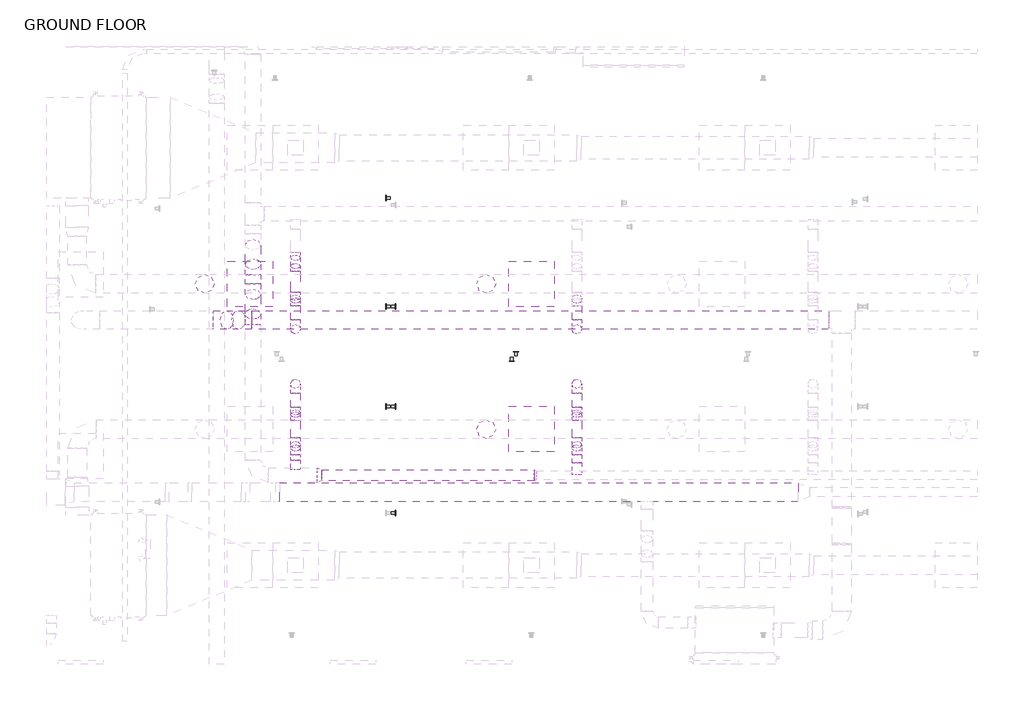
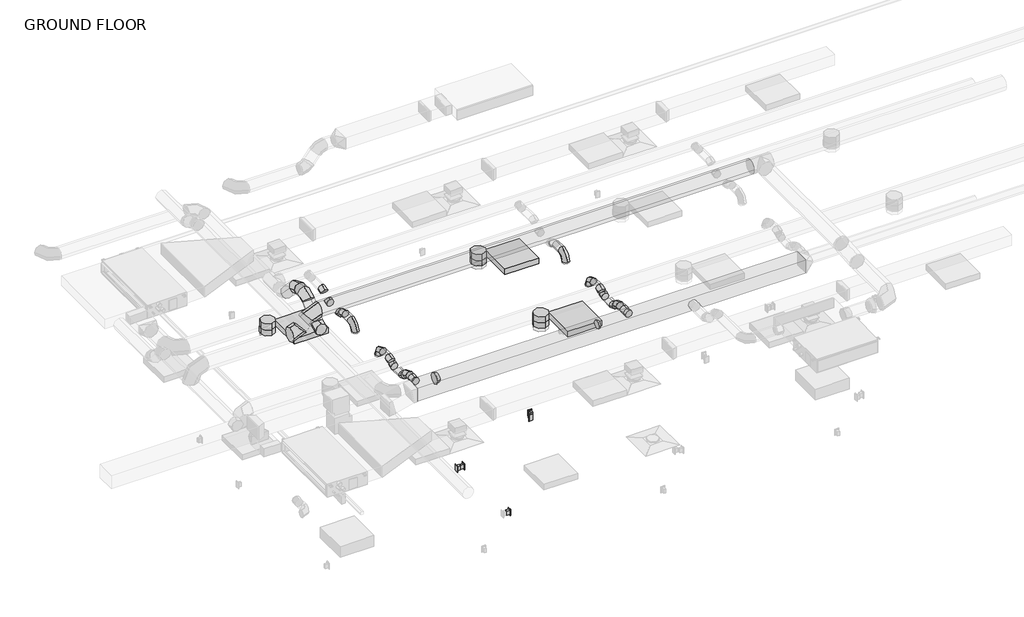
# One storey, part 3 of 22: 30 duct segments, 28 duct fittings, 6 proxies, 3 light fixtures, 2 electric appliances.
"""IFC4 building model written with IfcOpenShell, lengths in millimetres."""

from ifc_helpers import new_model, si_unit, point, frame, frame_2d, origin, place, context, project, spatial, polyline, circle_curve, trimmed, segment, composite_curve, outline, extrude, transform, mapped, element, save
from components import duplex_receptacle_countertop_10251bba, round_elbow_1_d_c80420c1, round_elbow_1_d_ab3aa7ba, round_elbow_1_d_e3dc691b, round_elbow_1_d_ea3dccb8, round_elbow_1_d_538d8ec8, round_elbow_1_d_400cd2ab, round_elbow_1_d_88736f48, round_elbow_1_d_3f34665d, round_takeoff_standard_c386a54e, round_takeoff_standard_86d024ab, round_takeoff_standard_c5a1f659, round_takeoff_standard_cae0fe22, round_transition_angle_45_degree_f2e0231c, round_transition_angle_45_degree_d2c7fbb0, telephone_outlet_data_plain_18c24199, troffer_corner_insert_2x2_3lamp_e67c7f8f

model = new_model("IFC4")

# Units and contexts
model_context = context("Model", 3, world=origin())
ifc_project = project(units=[si_unit("LENGTHUNIT", "METRE", prefix="MILLI")], contexts=[model_context])

# Site, building, storey
site = spatial("IfcSite", under=ifc_project)
building = spatial("IfcBuilding", under=site)
storey = spatial("IfcBuildingStorey", under=building, Name="GROUND FLOOR", Elevation=30480.0)

# Proxies
placement = place(None, origin())
duplex_receptacle_countertop_shape = duplex_receptacle_countertop_10251bba(model_context)
element("IfcBuildingElementProxy", 1, Name="Duplex Receptacle : Countertop", ObjectType="Duplex Receptacle : Countertop", at=placement, inside=storey, context=model_context, shape_type="MappedRepresentation", body=[
    mapped(duplex_receptacle_countertop_shape, transform((-2751.7704607, -2094.5054995, 30937.2), x_axis=(0.0, -1.0, 0.0), y_axis=(0.0, 0.0, 1.0), z_axis=(-1.0, 0.0, 0.0))),
])
element("IfcBuildingElementProxy", 2, Name="Duplex Receptacle : Countertop", ObjectType="Duplex Receptacle : Countertop", at=placement, inside=storey, context=model_context, shape_type="MappedRepresentation", body=[
    mapped(duplex_receptacle_countertop_shape, transform((-2627.9454607, -2094.5054995, 30937.2), x_axis=(0.0, 1.0, 0.0), y_axis=(0.0, 0.0, 1.0), z_axis=(1.0, 0.0, 0.0))),
])
element("IfcBuildingElementProxy", 3, Name="Duplex Receptacle : Countertop", ObjectType="Duplex Receptacle : Countertop", at=placement, inside=storey, context=model_context, shape_type="MappedRepresentation", body=[
    mapped(duplex_receptacle_countertop_shape, transform((-2627.9454607, -751.4804995, 30937.2), x_axis=(0.0, 1.0, 0.0), y_axis=(0.0, 0.0, 1.0), z_axis=(1.0, 0.0, 0.0))),
])
element("IfcBuildingElementProxy", 4, Name="Duplex Receptacle : Countertop", ObjectType="Duplex Receptacle : Countertop", at=placement, inside=storey, context=model_context, shape_type="MappedRepresentation", body=[
    mapped(duplex_receptacle_countertop_shape, transform((-2751.7704607, -751.4804995, 30937.2), x_axis=(0.0, -1.0, 0.0), y_axis=(0.0, 0.0, 1.0), z_axis=(-1.0, 0.0, 0.0))),
])
element("IfcBuildingElementProxy", 5, Name="Duplex Receptacle : Standard", ObjectType="Duplex Receptacle : Standard", at=placement, inside=storey, context=model_context, shape_type="MappedRepresentation", body=[
    mapped(duplex_receptacle_countertop_shape, transform((-1062.3593132, -1484.9054995, 30937.2), x_axis=(1.0, 0.0, 0.0), y_axis=(0.0, 0.0, 1.0), z_axis=(0.0, -1.0, 0.0))),
])
element("IfcBuildingElementProxy", 6, Name="Duplex Receptacle : Standard", ObjectType="Duplex Receptacle : Standard", at=placement, inside=storey, context=model_context, shape_type="MappedRepresentation", body=[
    mapped(duplex_receptacle_countertop_shape, transform((-1007.2617938, -1361.0804995, 30937.2), x_axis=(-1.0, 0.0, 0.0), y_axis=(0.0, 0.0, 1.0), z_axis=(0.0, 1.0, 0.0))),
])

# Duct fittings
round_elbow_1_d_shape = round_elbow_1_d_c80420c1(model_context)
element("IfcDuctFitting", 7, ObjectType="Round Elbow : 1 D", at=placement, inside=storey, context=model_context, shape_type="MappedRepresentation", body=[
    mapped(round_elbow_1_d_shape, transform((-3970.9704607, -1056.2804995, 33477.2), x_axis=(0.0, -1.0, 0.0), y_axis=(0.0, 0.0, -1.0), z_axis=(1.0, 0.0, 0.0))),
])
element("IfcDuctFitting", 8, ObjectType="Round Elbow : 1 D", at=placement, inside=storey, context=model_context, shape_type="MappedRepresentation", body=[
    mapped(round_elbow_1_d_shape, transform((-189.5454607, -1056.2804995, 33477.2), x_axis=(0.0, -1.0, 0.0), y_axis=(0.0, 0.0, -1.0), z_axis=(1.0, 0.0, 0.0))),
])
round_elbow_1_d_2_shape = round_elbow_1_d_ab3aa7ba(model_context)
element("IfcDuctFitting", 9, ObjectType="Round Elbow : 1 D", at=placement, inside=storey, context=model_context, shape_type="MappedRepresentation", body=[
    mapped(round_elbow_1_d_2_shape, transform((-4541.976464, -909.8231584, 33528.0), x_axis=(0.0, 1.0, 0.0), y_axis=(0.0, 0.0, 1.0), z_axis=(1.0, 0.0, 0.0))),
])
element("IfcDuctFitting", 10, ObjectType="Round Elbow : 1 D", at=placement, inside=storey, context=model_context, shape_type="MappedRepresentation", body=[
    mapped(round_elbow_1_d_2_shape, transform((-4541.976464, -528.8231584, 33909.0), x_axis=(0.0, 0.7071067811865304, 0.7071067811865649), y_axis=(0.0, 0.7071067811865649, -0.7071067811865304), z_axis=(-1.0, 0.0, 0.0))),
])
round_elbow_1_d_3_shape = round_elbow_1_d_e3dc691b(model_context)
element("IfcDuctFitting", 11, ObjectType="Round Elbow : 1 D", at=placement, inside=storey, context=model_context, shape_type="MappedRepresentation", body=[
    mapped(round_elbow_1_d_3_shape, transform((-3970.9704607, -2688.8145579, 33528.0), x_axis=(0.0, 1.0, 0.0), y_axis=(0.0, 0.0, -1.0), z_axis=(-1.0, 0.0, 0.0))),
])
element("IfcDuctFitting", 12, ObjectType="Round Elbow : 1 D", at=placement, inside=storey, context=model_context, shape_type="MappedRepresentation", body=[
    mapped(round_elbow_1_d_3_shape, transform((-3970.9704607, -2571.0260053, 33410.2114474), x_axis=(0.0, 0.7071067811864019, -0.7071067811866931), y_axis=(0.0, 0.7071067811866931, 0.7071067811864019), z_axis=(1.0, 0.0, 0.0))),
])
element("IfcDuctFitting", 13, ObjectType="Round Elbow : 1 D", at=placement, inside=storey, context=model_context, shape_type="MappedRepresentation", body=[
    mapped(round_elbow_1_d_3_shape, transform((-189.5454607, -2571.0260053, 33410.2114474), x_axis=(0.0, 0.7071067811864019, -0.7071067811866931), y_axis=(0.0, 0.7071067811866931, 0.7071067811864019), z_axis=(1.0, 0.0, 0.0))),
])
element("IfcDuctFitting", 14, ObjectType="Round Elbow : 1 D", at=placement, inside=storey, context=model_context, shape_type="MappedRepresentation", body=[
    mapped(round_elbow_1_d_3_shape, transform((-189.5454607, -2688.8145579, 33528.0), x_axis=(0.0, -0.707106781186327, 0.7071067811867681), y_axis=(0.0, -0.7071067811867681, -0.707106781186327), z_axis=(1.0, 0.0, 0.0))),
])
round_elbow_1_d_4_shape = round_elbow_1_d_ea3dccb8(model_context)
element("IfcDuctFitting", 15, ObjectType="Round Elbow : 1 D", at=placement, inside=storey, context=model_context, shape_type="MappedRepresentation", body=[
    mapped(round_elbow_1_d_4_shape, transform((-4664.8198591, -932.4554995, 33883.6), x_axis=(-1.0, 0.0, 0.0), y_axis=(0.0, 0.0, -1.0), z_axis=(0.0, -1.0, 0.0))),
])
element("IfcDuctFitting", 16, ObjectType="Round Elbow : 1 D", at=placement, inside=storey, context=model_context, shape_type="MappedRepresentation", body=[
    mapped(round_elbow_1_d_4_shape, transform((-4969.6198591, -932.4554995, 33578.8), x_axis=(-0.7071067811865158, 0.0, -0.7071067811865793), y_axis=(-0.7071067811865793, 0.0, 0.7071067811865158), z_axis=(0.0, 1.0, 0.0))),
])
round_elbow_1_d_5_shape = round_elbow_1_d_538d8ec8(model_context)
element("IfcDuctFitting", 17, ObjectType="Round Elbow : 1 D", at=placement, inside=storey, context=model_context, shape_type="MappedRepresentation", body=[
    mapped(round_elbow_1_d_5_shape, transform((-3970.9704607, -703.4357216, 33477.2), x_axis=(0.0, 1.0, 0.0), y_axis=(0.0, 0.0, -1.0), z_axis=(-1.0, 0.0, 0.0))),
])
element("IfcDuctFitting", 18, ObjectType="Round Elbow : 1 D", at=placement, inside=storey, context=model_context, shape_type="MappedRepresentation", body=[
    mapped(round_elbow_1_d_5_shape, transform((-3970.9704607, -599.403412, 33404.3557926), x_axis=(0.0, 0.8191520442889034, -0.5735764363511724), y_axis=(0.0, 0.5735764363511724, 0.8191520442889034), z_axis=(1.0, 0.0, 0.0))),
])
element("IfcDuctFitting", 19, ObjectType="Round Elbow : 1 D", at=placement, inside=storey, context=model_context, shape_type="MappedRepresentation", body=[
    mapped(round_elbow_1_d_5_shape, transform((-3970.9704607, -240.3054995, 33404.3557926), x_axis=(0.0, 1.0, 0.0), y_axis=(0.0, 0.0, 1.0), z_axis=(1.0, 0.0, 0.0))),
])
element("IfcDuctFitting", 20, ObjectType="Round Elbow : 1 D", at=placement, inside=storey, context=model_context, shape_type="MappedRepresentation", body=[
    mapped(round_elbow_1_d_5_shape, transform((-3970.9704607, -2238.2198452, 33410.2114474), x_axis=(0.0, -0.8191520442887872, -0.5735764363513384), y_axis=(0.0, -0.5735764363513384, 0.8191520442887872), z_axis=(-1.0, 0.0, 0.0))),
])
element("IfcDuctFitting", 21, ObjectType="Round Elbow : 1 D", at=placement, inside=storey, context=model_context, shape_type="MappedRepresentation", body=[
    mapped(round_elbow_1_d_5_shape, transform((-3970.9704607, -63.7232711, 33528.0), x_axis=(0.0, 0.8191520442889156, 0.5735764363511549), y_axis=(0.0, 0.5735764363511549, -0.8191520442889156), z_axis=(-1.0, 0.0, 0.0))),
])
element("IfcDuctFitting", 22, ObjectType="Round Elbow : 1 D", at=placement, inside=storey, context=model_context, shape_type="MappedRepresentation", body=[
    mapped(round_elbow_1_d_5_shape, transform((-189.5454607, -2238.2198452, 33410.2114474), x_axis=(0.0, -0.8191520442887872, -0.5735764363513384), y_axis=(0.0, -0.5735764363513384, 0.8191520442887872), z_axis=(-1.0, 0.0, 0.0))),
])
round_elbow_1_d_6_shape = round_elbow_1_d_400cd2ab(model_context)
element("IfcDuctFitting", 23, ObjectType="Round Elbow : 1 D", at=placement, inside=storey, context=model_context, shape_type="MappedRepresentation", body=[
    mapped(round_elbow_1_d_6_shape, transform((-3970.9704607, -1789.7054995, 33477.2), x_axis=(0.0, 1.0, 0.0), y_axis=(0.0, 0.0, 1.0), z_axis=(1.0, 0.0, 0.0))),
])
element("IfcDuctFitting", 24, ObjectType="Round Elbow : 1 D", at=placement, inside=storey, context=model_context, shape_type="MappedRepresentation", body=[
    mapped(round_elbow_1_d_6_shape, transform((-189.5454607, -1789.7054995, 33477.2), x_axis=(0.0, 1.0, 0.0), y_axis=(0.0, 0.0, 1.0), z_axis=(1.0, 0.0, 0.0))),
])
round_elbow_1_d_7_shape = round_elbow_1_d_88736f48(model_context)
element("IfcDuctFitting", 25, ObjectType="Round Elbow : 1 D", at=placement, inside=storey, context=model_context, shape_type="MappedRepresentation", body=[
    mapped(round_elbow_1_d_7_shape, transform((-3970.9704607, -2142.5502773, 33477.2), x_axis=(0.0, -1.0, 0.0), y_axis=(0.0, 0.0, 1.0), z_axis=(-1.0, 0.0, 0.0))),
])
element("IfcDuctFitting", 26, ObjectType="Round Elbow : 1 D", at=placement, inside=storey, context=model_context, shape_type="MappedRepresentation", body=[
    mapped(round_elbow_1_d_7_shape, transform((-189.5454607, -2142.5502773, 33477.2), x_axis=(0.0, -1.0, 0.0), y_axis=(0.0, 0.0, 1.0), z_axis=(-1.0, 0.0, 0.0))),
])
round_elbow_1_d_8_shape = round_elbow_1_d_3f34665d(model_context)
element("IfcDuctFitting", 27, ObjectType="Round Elbow : 1 D", at=placement, inside=storey, context=model_context, shape_type="MappedRepresentation", body=[
    mapped(round_elbow_1_d_8_shape, transform((-4541.976464, -241.4549626, 33909.0), x_axis=(0.0, -0.7071067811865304, 0.7071067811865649), y_axis=(0.0, 0.7071067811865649, 0.7071067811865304), z_axis=(-1.0, 0.0, 0.0))),
])
round_takeoff_standard_shape = round_takeoff_standard_c386a54e(model_context)
element("IfcDuctFitting", 28, ObjectType="Round Takeoff : Standard", at=placement, inside=storey, context=model_context, shape_type="MappedRepresentation", body=[
    mapped(round_takeoff_standard_shape, transform((-1408.7454607, -446.6804995, 33490.69375), x_axis=(0.0, 0.0, -1.0), y_axis=(-1.0, 0.0, 0.0), z_axis=(0.0, 1.0, 0.0))),
])
element("IfcDuctFitting", 29, ObjectType="Round Takeoff : Standard", at=placement, inside=storey, context=model_context, shape_type="MappedRepresentation", body=[
    mapped(round_takeoff_standard_shape, transform((-5190.1704607, -446.6804995, 33490.69375), x_axis=(0.0, 0.0, -1.0), y_axis=(-1.0, 0.0, 0.0), z_axis=(0.0, 1.0, 0.0))),
])
round_takeoff_standard_2_shape = round_takeoff_standard_86d024ab(model_context)
element("IfcDuctFitting", 30, ObjectType="Round Takeoff : Standard", at=placement, inside=storey, context=model_context, shape_type="MappedRepresentation", body=[
    mapped(round_takeoff_standard_2_shape, transform((-3970.9704607, -2917.4145579, 33528.0), x_axis=(0.0, 1.0, 0.0), y_axis=(1.0, 0.0, 0.0), z_axis=(0.0, 0.0, -1.0))),
])
round_takeoff_standard_3_shape = round_takeoff_standard_c5a1f659(model_context)
element("IfcDuctFitting", 31, ObjectType="Round Takeoff : Standard", at=placement, inside=storey, context=model_context, shape_type="MappedRepresentation", body=[
    mapped(round_takeoff_standard_3_shape, transform((-1408.7454607, -2399.3054995, 33490.69375), x_axis=(0.0, 0.0, -1.0), y_axis=(-1.0, 0.0, 0.0), z_axis=(0.0, 1.0, 0.0))),
])
round_takeoff_standard_4_shape = round_takeoff_standard_cae0fe22(model_context)
element("IfcDuctFitting", 32, ObjectType="Round Takeoff : Standard", at=placement, inside=storey, context=model_context, shape_type="MappedRepresentation", body=[
    mapped(round_takeoff_standard_4_shape, transform((-189.5454607, -2955.5145579, 33528.0), x_axis=(0.0, 1.0, 0.0), y_axis=(1.0, 0.0, 0.0), z_axis=(0.0, 0.0, -1.0))),
])
round_transition_angle_45_degree_shape = round_transition_angle_45_degree_f2e0231c(model_context)
element("IfcDuctFitting", 33, ObjectType="Round Transition - Angle : 45 Degree", at=placement, inside=storey, context=model_context, shape_type="MappedRepresentation", body=[
    mapped(round_transition_angle_45_degree_shape, transform((-731.976464, -3019.0145579, 33528.0), x_axis=(-1.0, 0.0, 0.0), y_axis=(0.0, -1.0, 0.0), z_axis=(0.0, 0.0, 1.0))),
])
round_transition_angle_45_degree_2_shape = round_transition_angle_45_degree_d2c7fbb0(model_context)
element("IfcDuctFitting", 34, ObjectType="Round Transition - Angle : 45 Degree", at=placement, inside=storey, context=model_context, shape_type="MappedRepresentation", body=[
    mapped(round_transition_angle_45_degree_2_shape, transform((-3681.8784098, -3019.0145579, 33528.0), x_axis=(1.0, 0.0, 0.0), y_axis=(0.0, 1.0, 0.0), z_axis=(0.0, 0.0, 1.0))),
])

# Duct segments
element("IfcDuctSegment", 35, ObjectType="Radius Elbows / Taps", at=placement, inside=storey, context=model_context, shape_type="SweptSolid", body=[
    extrude(outline(polyline([(2787.255189, -3118.6216457), (2787.255189, -3372.6216457), (-4184.5880259, -3372.6216457), (-4184.5880259, -3118.6216457), (2787.255189, -3118.6216457)])), frame((0.0, 0.0, 33475.867541), z_axis=(0.0, 0.0, 1.0), x_axis=(1.0, 0.0, 0.0)), (0.0, 0.0, 1.0), 254.0),
])
element("IfcDuctSegment", 36, ObjectType="Taps / Short Radius", at=placement, inside=storey, context=model_context, shape_type="SweptSolid", body=[
    extrude(outline(composite_curve([segment(trimmed(circle_curve(frame_2d((-932.4554995, 33883.6)), 127.0), [point((-805.4554995, 33883.6))], [point((-932.4554995, 33756.6))], False, "CARTESIAN"), True, "CONTINUOUS"), segment(trimmed(circle_curve(frame_2d((-932.4554995, 33883.6)), 127.0), [point((-932.4554995, 33756.6))], [point((-1059.4554995, 33883.6))], False, "CARTESIAN"), True, "CONTINUOUS"), segment(trimmed(circle_curve(frame_2d((-932.4554995, 33883.6)), 127.0), [point((-1059.4554995, 33883.6))], [point((-932.4554995, 34010.6))], False, "CARTESIAN"), True, "CONTINUOUS"), segment(trimmed(circle_curve(frame_2d((-932.4554995, 33883.6)), 127.0), [point((-932.4554995, 34010.6))], [point((-805.4554995, 33883.6))], False, "CARTESIAN"), True, "CONTINUOUS")], self_intersect=False)), frame((-4559.6096142, 0.0, 0.0), z_axis=(1.0, 0.0, 0.0), x_axis=(0.0, 1.0, 0.0)), (0.0, 0.0, 1.0), 7755.0178177),
])
element("IfcDuctSegment", 37, ObjectType="Taps / Short Radius", at=placement, inside=storey, context=model_context, shape_type="SweptSolid", body=[
    extrude(outline(composite_curve([segment(trimmed(circle_curve(frame_2d((0.0, -127.0)), 127.0), [point((0.0, 0.0))], [point((127.0, -127.0))], False, "CARTESIAN"), True, "CONTINUOUS"), segment(trimmed(circle_curve(frame_2d((0.0, -127.0)), 127.0), [point((127.0, -127.0))], [point((0.0, -254.0))], False, "CARTESIAN"), True, "CONTINUOUS"), segment(trimmed(circle_curve(frame_2d((0.0, -127.0)), 127.0), [point((0.0, -254.0))], [point((-127.0, -127.0))], False, "CARTESIAN"), True, "CONTINUOUS"), segment(trimmed(circle_curve(frame_2d((0.0, -127.0)), 127.0), [point((-127.0, -127.0))], [point((0.0, 0.0))], False, "CARTESIAN"), True, "CONTINUOUS")], self_intersect=False)), frame((-4895.2249815, -805.4554995, 33653.1948776), z_axis=(0.7071067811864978, 0.0, 0.7071067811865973), x_axis=(0.7071067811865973, 0.0, -0.7071067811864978)), (0.0, 0.0, 1.0), 220.6318041),
])
element("IfcDuctSegment", 38, ObjectType="Taps / Short Radius", at=placement, inside=storey, context=model_context, shape_type="SweptSolid", body=[
    extrude(outline(composite_curve([segment(trimmed(circle_curve(frame_2d((-1408.7454607, -2399.3054995)), 127.0), [point((-1535.7454607, -2399.3054995))], [point((-1408.7454607, -2272.3054995))], False, "CARTESIAN"), True, "CONTINUOUS"), segment(trimmed(circle_curve(frame_2d((-1408.7454607, -2399.3054995)), 127.0), [point((-1408.7454607, -2272.3054995))], [point((-1281.7454607, -2399.3054995))], False, "CARTESIAN"), True, "CONTINUOUS"), segment(trimmed(circle_curve(frame_2d((-1408.7454607, -2399.3054995)), 127.0), [point((-1281.7454607, -2399.3054995))], [point((-1408.7454607, -2526.3054995))], False, "CARTESIAN"), True, "CONTINUOUS"), segment(trimmed(circle_curve(frame_2d((-1408.7454607, -2399.3054995)), 127.0), [point((-1408.7454607, -2526.3054995))], [point((-1535.7454607, -2399.3054995))], False, "CARTESIAN"), True, "CONTINUOUS")], self_intersect=False)), frame((0.0, 0.0, 33324.8), z_axis=(0.0, 0.0, 1.0), x_axis=(1.0, 0.0, 0.0)), (0.0, 0.0, 1.0), 64.29375),
])
element("IfcDuctSegment", 39, ObjectType="Taps / Short Radius", at=placement, inside=storey, context=model_context, shape_type="SweptSolid", body=[
    extrude(outline(composite_curve([segment(trimmed(circle_curve(frame_2d((-1408.7454607, -446.6804995)), 127.0), [point((-1535.7454607, -446.6804995))], [point((-1408.7454607, -319.6804995))], False, "CARTESIAN"), True, "CONTINUOUS"), segment(trimmed(circle_curve(frame_2d((-1408.7454607, -446.6804995)), 127.0), [point((-1408.7454607, -319.6804995))], [point((-1281.7454607, -446.6804995))], False, "CARTESIAN"), True, "CONTINUOUS"), segment(trimmed(circle_curve(frame_2d((-1408.7454607, -446.6804995)), 127.0), [point((-1281.7454607, -446.6804995))], [point((-1408.7454607, -573.6804995))], False, "CARTESIAN"), True, "CONTINUOUS"), segment(trimmed(circle_curve(frame_2d((-1408.7454607, -446.6804995)), 127.0), [point((-1408.7454607, -573.6804995))], [point((-1535.7454607, -446.6804995))], False, "CARTESIAN"), True, "CONTINUOUS")], self_intersect=False)), frame((0.0, 0.0, 33324.8), z_axis=(0.0, 0.0, 1.0), x_axis=(1.0, 0.0, 0.0)), (0.0, 0.0, 1.0), 64.29375),
])
element("IfcDuctSegment", 40, ObjectType="Taps / Short Radius", at=placement, inside=storey, context=model_context, shape_type="SweptSolid", body=[
    extrude(outline(composite_curve([segment(trimmed(circle_curve(frame_2d((-5190.1704607, -446.6804995)), 127.0), [point((-5317.1704607, -446.6804995))], [point((-5190.1704607, -319.6804995))], False, "CARTESIAN"), True, "CONTINUOUS"), segment(trimmed(circle_curve(frame_2d((-5190.1704607, -446.6804995)), 127.0), [point((-5190.1704607, -319.6804995))], [point((-5063.1704607, -446.6804995))], False, "CARTESIAN"), True, "CONTINUOUS"), segment(trimmed(circle_curve(frame_2d((-5190.1704607, -446.6804995)), 127.0), [point((-5063.1704607, -446.6804995))], [point((-5190.1704607, -573.6804995))], False, "CARTESIAN"), True, "CONTINUOUS"), segment(trimmed(circle_curve(frame_2d((-5190.1704607, -446.6804995)), 127.0), [point((-5190.1704607, -573.6804995))], [point((-5317.1704607, -446.6804995))], False, "CARTESIAN"), True, "CONTINUOUS")], self_intersect=False)), frame((0.0, 0.0, 33324.8), z_axis=(0.0, 0.0, 1.0), x_axis=(1.0, 0.0, 0.0)), (0.0, 0.0, 1.0), 64.29375),
])
element("IfcDuctSegment", 41, ObjectType="Taps / Short Radius", at=placement, inside=storey, context=model_context, shape_type="SweptSolid", body=[
    extrude(outline(composite_curve([segment(trimmed(circle_curve(frame_2d((-3970.9704607, -1056.2804995)), 63.5), [point((-4034.4704607, -1056.2804995))], [point((-3970.9704607, -992.7804995))], False, "CARTESIAN"), True, "CONTINUOUS"), segment(trimmed(circle_curve(frame_2d((-3970.9704607, -1056.2804995)), 63.5), [point((-3970.9704607, -992.7804995))], [point((-3907.4704607, -1056.2804995))], False, "CARTESIAN"), True, "CONTINUOUS"), segment(trimmed(circle_curve(frame_2d((-3970.9704607, -1056.2804995)), 63.5), [point((-3907.4704607, -1056.2804995))], [point((-3970.9704607, -1119.7804995))], False, "CARTESIAN"), True, "CONTINUOUS"), segment(trimmed(circle_curve(frame_2d((-3970.9704607, -1056.2804995)), 63.5), [point((-3970.9704607, -1119.7804995))], [point((-4034.4704607, -1056.2804995))], False, "CARTESIAN"), True, "CONTINUOUS")], self_intersect=False)), frame((0.0, 0.0, 33324.8), z_axis=(0.0, 0.0, 1.0), x_axis=(1.0, 0.0, 0.0)), (0.0, 0.0, 1.0), 25.4),
])
element("IfcDuctSegment", 42, ObjectType="Taps / Short Radius", at=placement, inside=storey, context=model_context, shape_type="SweptSolid", body=[
    extrude(outline(composite_curve([segment(trimmed(circle_curve(frame_2d((-3019.0145579, 33528.0)), 76.2), [point((-2942.8145579, 33528.0))], [point((-3019.0145579, 33451.8))], False, "CARTESIAN"), True, "CONTINUOUS"), segment(trimmed(circle_curve(frame_2d((-3019.0145579, 33528.0)), 76.2), [point((-3019.0145579, 33451.8))], [point((-3095.2145579, 33528.0))], False, "CARTESIAN"), True, "CONTINUOUS"), segment(trimmed(circle_curve(frame_2d((-3019.0145579, 33528.0)), 76.2), [point((-3095.2145579, 33528.0))], [point((-3019.0145579, 33604.2))], False, "CARTESIAN"), True, "CONTINUOUS"), segment(trimmed(circle_curve(frame_2d((-3019.0145579, 33528.0)), 76.2), [point((-3019.0145579, 33604.2))], [point((-2942.8145579, 33528.0))], False, "CARTESIAN"), True, "CONTINUOUS")], self_intersect=False)), frame((-3620.5573854, 0.0, 0.0), z_axis=(1.0, 0.0, 0.0), x_axis=(0.0, 1.0, 0.0)), (0.0, 0.0, 1.0), 2857.9204091),
])
element("IfcDuctSegment", 43, ObjectType="Taps / Short Radius", at=placement, inside=storey, context=model_context, shape_type="SweptSolid", body=[
    extrude(outline(composite_curve([segment(trimmed(circle_curve(frame_2d((33909.0, -4541.976464)), 101.6), [point((33909.0, -4440.376464))], [point((34010.6, -4541.976464))], False, "CARTESIAN"), True, "CONTINUOUS"), segment(trimmed(circle_curve(frame_2d((33909.0, -4541.976464)), 101.6), [point((34010.6, -4541.976464))], [point((33909.0, -4643.576464))], False, "CARTESIAN"), True, "CONTINUOUS"), segment(trimmed(circle_curve(frame_2d((33909.0, -4541.976464)), 101.6), [point((33909.0, -4643.576464))], [point((33807.4, -4541.976464))], False, "CARTESIAN"), True, "CONTINUOUS"), segment(trimmed(circle_curve(frame_2d((33909.0, -4541.976464)), 101.6), [point((33807.4, -4541.976464))], [point((33909.0, -4440.376464))], False, "CARTESIAN"), True, "CONTINUOUS")], self_intersect=False)), frame((0.0, -444.6549626, 0.0), z_axis=(0.0, 1.0, 0.0), x_axis=(0.0, 0.0, 1.0)), (0.0, 0.0, 1.0), 119.0318041),
])
element("IfcDuctSegment", 44, ObjectType="Taps / Short Radius", at=placement, inside=storey, context=model_context, shape_type="SweptSolid", body=[
    extrude(outline(composite_curve([segment(trimmed(circle_curve(frame_2d((0.0, 101.5999999)), 101.6), [point((101.6, 101.5999999))], [point((0.0, 0.0))], False, "CARTESIAN"), True, "CONTINUOUS"), segment(trimmed(circle_curve(frame_2d((0.0, 101.5999999)), 101.6), [point((0.0, 0.0))], [point((-101.6, 101.5999999))], False, "CARTESIAN"), True, "CONTINUOUS"), segment(trimmed(circle_curve(frame_2d((0.0, 101.5999999)), 101.6), [point((-101.6, 101.5999999))], [point((0.0, 203.1999999))], False, "CARTESIAN"), True, "CONTINUOUS"), segment(trimmed(circle_curve(frame_2d((0.0, 101.5999999)), 101.6), [point((0.0, 203.1999999))], [point((101.6, 101.5999999))], False, "CARTESIAN"), True, "CONTINUOUS")], self_intersect=False)), frame((-4541.976464, -922.1493053, 33659.357951), z_axis=(0.0, 0.7071067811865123, 0.7071067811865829), x_axis=(1.0, 0.0, 0.0)), (0.0, 0.0, 1.0), 370.4789755),
])
element("IfcDuctSegment", 45, ObjectType="Taps / Short Radius", at=placement, inside=storey, context=model_context, shape_type="SweptSolid", body=[
    extrude(outline(composite_curve([segment(trimmed(circle_curve(frame_2d((33477.2, -3970.9704607)), 63.5), [point((33477.2, -3907.4704607))], [point((33540.7, -3970.9704607))], False, "CARTESIAN"), True, "CONTINUOUS"), segment(trimmed(circle_curve(frame_2d((33477.2, -3970.9704607)), 63.5), [point((33540.7, -3970.9704607))], [point((33477.2, -4034.4704607))], False, "CARTESIAN"), True, "CONTINUOUS"), segment(trimmed(circle_curve(frame_2d((33477.2, -3970.9704607)), 63.5), [point((33477.2, -4034.4704607))], [point((33413.7, -3970.9704607))], False, "CARTESIAN"), True, "CONTINUOUS"), segment(trimmed(circle_curve(frame_2d((33477.2, -3970.9704607)), 63.5), [point((33413.7, -3970.9704607))], [point((33477.2, -3907.4704607))], False, "CARTESIAN"), True, "CONTINUOUS")], self_intersect=False)), frame((0.0, -929.2804995, 0.0), z_axis=(0.0, 1.0, 0.0), x_axis=(0.0, 0.0, 1.0)), (0.0, 0.0, 1.0), 185.8018317),
])
element("IfcDuctSegment", 46, ObjectType="Taps / Short Radius", at=placement, inside=storey, context=model_context, shape_type="SweptSolid", body=[
    extrude(outline(composite_curve([segment(trimmed(circle_curve(frame_2d((0.0, -63.5)), 63.5), [point((63.5, -63.5))], [point((0.0, -127.0000001))], False, "CARTESIAN"), True, "CONTINUOUS"), segment(trimmed(circle_curve(frame_2d((0.0, -63.5)), 63.5), [point((0.0, -127.0000001))], [point((-63.5, -63.5))], False, "CARTESIAN"), True, "CONTINUOUS"), segment(trimmed(circle_curve(frame_2d((0.0, -63.5)), 63.5), [point((-63.5, -63.5))], [point((0.0, 0.0))], False, "CARTESIAN"), True, "CONTINUOUS"), segment(trimmed(circle_curve(frame_2d((0.0, -63.5)), 63.5), [point((0.0, 0.0))], [point((63.5, -63.5))], False, "CARTESIAN"), True, "CONTINUOUS")], self_intersect=False)), frame((-3970.9704607, -595.7825695, 33479.3396378), z_axis=(0.0, -0.8191520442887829, 0.5735764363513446), x_axis=(1.0, 0.0, 0.0)), (0.0, 0.0, 1.0), 46.9141076),
])
element("IfcDuctSegment", 47, ObjectType="Taps / Short Radius", at=placement, inside=storey, context=model_context, shape_type="SweptSolid", body=[
    extrude(outline(composite_curve([segment(trimmed(circle_curve(frame_2d((33404.3557926, -3970.9704607)), 63.5), [point((33404.3557926, -3907.4704607))], [point((33467.8557926, -3970.9704607))], False, "CARTESIAN"), True, "CONTINUOUS"), segment(trimmed(circle_curve(frame_2d((33404.3557926, -3970.9704607)), 63.5), [point((33467.8557926, -3970.9704607))], [point((33404.3557926, -4034.4704607))], False, "CARTESIAN"), True, "CONTINUOUS"), segment(trimmed(circle_curve(frame_2d((33404.3557926, -3970.9704607)), 63.5), [point((33404.3557926, -4034.4704607))], [point((33340.8557926, -3970.9704607))], False, "CARTESIAN"), True, "CONTINUOUS"), segment(trimmed(circle_curve(frame_2d((33404.3557926, -3970.9704607)), 63.5), [point((33340.8557926, -3970.9704607))], [point((33404.3557926, -3907.4704607))], False, "CARTESIAN"), True, "CONTINUOUS")], self_intersect=False)), frame((0.0, -559.3604658, 0.0), z_axis=(0.0, 1.0, 0.0), x_axis=(0.0, 0.0, 1.0)), (0.0, 0.0, 1.0), 279.0120202),
])
element("IfcDuctSegment", 48, ObjectType="Taps / Short Radius", at=placement, inside=storey, context=model_context, shape_type="SweptSolid", body=[
    extrude(outline(composite_curve([segment(trimmed(circle_curve(frame_2d((0.0, 63.5)), 63.5), [point((63.5, 63.5))], [point((0.0, 0.0))], False, "CARTESIAN"), True, "CONTINUOUS"), segment(trimmed(circle_curve(frame_2d((0.0, 63.5)), 63.5), [point((0.0, 0.0))], [point((-63.5, 63.5))], False, "CARTESIAN"), True, "CONTINUOUS"), segment(trimmed(circle_curve(frame_2d((0.0, 63.5)), 63.5), [point((-63.5, 63.5))], [point((0.0, 127.0000001))], False, "CARTESIAN"), True, "CONTINUOUS"), segment(trimmed(circle_curve(frame_2d((0.0, 63.5)), 63.5), [point((0.0, 127.0000001))], [point((63.5, 63.5))], False, "CARTESIAN"), True, "CONTINUOUS")], self_intersect=False)), frame((-3970.9704607, -243.926342, 33479.3396378), z_axis=(0.0, 0.81915204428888, 0.5735764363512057), x_axis=(1.0, 0.0, 0.0)), (0.0, 0.0, 1.0), 135.4812048),
])
element("IfcDuctSegment", 49, ObjectType="Taps / Short Radius", at=placement, inside=storey, context=model_context, shape_type="SweptSolid", body=[
    extrude(outline(composite_curve([segment(trimmed(circle_curve(frame_2d((-3970.9704607, -1789.7054995)), 63.5), [point((-3907.4704607, -1789.7054995))], [point((-3970.9704607, -1853.2054995))], False, "CARTESIAN"), True, "CONTINUOUS"), segment(trimmed(circle_curve(frame_2d((-3970.9704607, -1789.7054995)), 63.5), [point((-3970.9704607, -1853.2054995))], [point((-4034.4704607, -1789.7054995))], False, "CARTESIAN"), True, "CONTINUOUS"), segment(trimmed(circle_curve(frame_2d((-3970.9704607, -1789.7054995)), 63.5), [point((-4034.4704607, -1789.7054995))], [point((-3970.9704607, -1726.2054995))], False, "CARTESIAN"), True, "CONTINUOUS"), segment(trimmed(circle_curve(frame_2d((-3970.9704607, -1789.7054995)), 63.5), [point((-3970.9704607, -1726.2054995))], [point((-3907.4704607, -1789.7054995))], False, "CARTESIAN"), True, "CONTINUOUS")], self_intersect=False)), frame((0.0, 0.0, 33324.8), z_axis=(0.0, 0.0, 1.0), x_axis=(1.0, 0.0, 0.0)), (0.0, 0.0, 1.0), 25.4),
])
element("IfcDuctSegment", 50, ObjectType="Taps / Short Radius", at=placement, inside=storey, context=model_context, shape_type="SweptSolid", body=[
    extrude(outline(composite_curve([segment(trimmed(circle_curve(frame_2d((33477.2, -3970.9704607)), 63.5), [point((33477.2, -4034.4704607))], [point((33413.7, -3970.9704607))], False, "CARTESIAN"), True, "CONTINUOUS"), segment(trimmed(circle_curve(frame_2d((33477.2, -3970.9704607)), 63.5), [point((33413.7, -3970.9704607))], [point((33477.2, -3907.4704607))], False, "CARTESIAN"), True, "CONTINUOUS"), segment(trimmed(circle_curve(frame_2d((33477.2, -3970.9704607)), 63.5), [point((33477.2, -3907.4704607))], [point((33540.7, -3970.9704607))], False, "CARTESIAN"), True, "CONTINUOUS"), segment(trimmed(circle_curve(frame_2d((33477.2, -3970.9704607)), 63.5), [point((33540.7, -3970.9704607))], [point((33477.2, -4034.4704607))], False, "CARTESIAN"), True, "CONTINUOUS")], self_intersect=False)), frame((0.0, -2102.5073311, 0.0), z_axis=(0.0, 1.0, 0.0), x_axis=(0.0, 0.0, 1.0)), (0.0, 0.0, 1.0), 185.8018317),
])
element("IfcDuctSegment", 51, ObjectType="Taps / Short Radius", at=placement, inside=storey, context=model_context, shape_type="SweptSolid", body=[
    extrude(outline(composite_curve([segment(trimmed(circle_curve(frame_2d((0.0, -63.5)), 63.5), [point((-63.5, -63.5))], [point((0.0, 0.0))], False, "CARTESIAN"), True, "CONTINUOUS"), segment(trimmed(circle_curve(frame_2d((0.0, -63.5)), 63.5), [point((0.0, 0.0))], [point((63.5, -63.5))], False, "CARTESIAN"), True, "CONTINUOUS"), segment(trimmed(circle_curve(frame_2d((0.0, -63.5)), 63.5), [point((63.5, -63.5))], [point((0.0, -127.0))], False, "CARTESIAN"), True, "CONTINUOUS"), segment(trimmed(circle_curve(frame_2d((0.0, -63.5)), 63.5), [point((0.0, -127.0))], [point((-63.5, -63.5))], False, "CARTESIAN"), True, "CONTINUOUS")], self_intersect=False)), frame((-3970.9704607, -2168.9964802, 33381.162983), z_axis=(0.0, 0.819152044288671, 0.5735764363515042), x_axis=(1.0, 0.0, 0.0)), (0.0, 0.0, 1.0), 36.7050849),
])
element("IfcDuctSegment", 52, ObjectType="Taps / Short Radius", at=placement, inside=storey, context=model_context, shape_type="SweptSolid", body=[
    extrude(outline(composite_curve([segment(trimmed(circle_curve(frame_2d((0.0, -101.5999999)), 101.6), [point((101.6, -101.5999999))], [point((0.0, -203.1999999))], False, "CARTESIAN"), True, "CONTINUOUS"), segment(trimmed(circle_curve(frame_2d((0.0, -101.5999999)), 101.6), [point((0.0, -203.1999999))], [point((-101.6, -101.5999999))], False, "CARTESIAN"), True, "CONTINUOUS"), segment(trimmed(circle_curve(frame_2d((0.0, -101.5999999)), 101.6), [point((-101.6, -101.5999999))], [point((0.0, 0.0))], False, "CARTESIAN"), True, "CONTINUOUS"), segment(trimmed(circle_curve(frame_2d((0.0, -101.5999999)), 101.6), [point((0.0, 0.0))], [point((101.6, -101.5999999))], False, "CARTESIAN"), True, "CONTINUOUS")], self_intersect=False)), frame((-4541.976464, 151.8711843, 33659.357951), z_axis=(0.0, -0.7071067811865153, 0.7071067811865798), x_axis=(1.0, 0.0, 0.0)), (0.0, 0.0, 1.0), 370.4789755),
])
element("IfcDuctSegment", 53, ObjectType="Taps / Short Radius", at=placement, inside=storey, context=model_context, shape_type="SweptSolid", body=[
    extrude(outline(composite_curve([segment(trimmed(circle_curve(frame_2d((33528.0, -3970.9704607)), 63.5), [point((33528.0, -3907.4704607))], [point((33591.5, -3970.9704607))], False, "CARTESIAN"), True, "CONTINUOUS"), segment(trimmed(circle_curve(frame_2d((33528.0, -3970.9704607)), 63.5), [point((33591.5, -3970.9704607))], [point((33528.0, -4034.4704607))], False, "CARTESIAN"), True, "CONTINUOUS"), segment(trimmed(circle_curve(frame_2d((33528.0, -3970.9704607)), 63.5), [point((33528.0, -4034.4704607))], [point((33464.5, -3970.9704607))], False, "CARTESIAN"), True, "CONTINUOUS"), segment(trimmed(circle_curve(frame_2d((33528.0, -3970.9704607)), 63.5), [point((33464.5, -3970.9704607))], [point((33528.0, -3907.4704607))], False, "CARTESIAN"), True, "CONTINUOUS")], self_intersect=False)), frame((0.0, -2815.8145579, 0.0), z_axis=(0.0, 1.0, 0.0), x_axis=(0.0, 0.0, 1.0)), (0.0, 0.0, 1.0), 74.3948776),
])
element("IfcDuctSegment", 54, ObjectType="Taps / Short Radius", at=placement, inside=storey, context=model_context, shape_type="SweptSolid", body=[
    extrude(outline(composite_curve([segment(trimmed(circle_curve(frame_2d((0.0, -63.5)), 63.5), [point((63.5, -63.5))], [point((0.0, -127.0))], False, "CARTESIAN"), True, "CONTINUOUS"), segment(trimmed(circle_curve(frame_2d((0.0, -63.5)), 63.5), [point((0.0, -127.0))], [point((-63.5, -63.5))], False, "CARTESIAN"), True, "CONTINUOUS"), segment(trimmed(circle_curve(frame_2d((0.0, -63.5)), 63.5), [point((-63.5, -63.5))], [point((0.0, 0.0))], False, "CARTESIAN"), True, "CONTINUOUS"), segment(trimmed(circle_curve(frame_2d((0.0, -63.5)), 63.5), [point((0.0, 0.0))], [point((63.5, -63.5))], False, "CARTESIAN"), True, "CONTINUOUS")], self_intersect=False)), frame((-3970.9704607, -2563.3221635, 33492.3101668), z_axis=(0.0, -0.7071067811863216, 0.7071067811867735), x_axis=(1.0, 0.0, 0.0)), (0.0, 0.0, 1.0), 61.3679237),
])
element("IfcDuctSegment", 55, ObjectType="Taps / Short Radius", at=placement, inside=storey, context=model_context, shape_type="SweptSolid", body=[
    extrude(outline(composite_curve([segment(trimmed(circle_curve(frame_2d((33410.2114474, -3970.9704607)), 63.5), [point((33410.2114474, -4034.4704607))], [point((33346.7114474, -3970.9704607))], False, "CARTESIAN"), True, "CONTINUOUS"), segment(trimmed(circle_curve(frame_2d((33410.2114474, -3970.9704607)), 63.5), [point((33346.7114474, -3970.9704607))], [point((33410.2114474, -3907.4704607))], False, "CARTESIAN"), True, "CONTINUOUS"), segment(trimmed(circle_curve(frame_2d((33410.2114474, -3970.9704607)), 63.5), [point((33410.2114474, -3907.4704607))], [point((33473.7114474, -3970.9704607))], False, "CARTESIAN"), True, "CONTINUOUS"), segment(trimmed(circle_curve(frame_2d((33410.2114474, -3970.9704607)), 63.5), [point((33473.7114474, -3970.9704607))], [point((33410.2114474, -4034.4704607))], False, "CARTESIAN"), True, "CONTINUOUS")], self_intersect=False)), frame((0.0, -2518.4208829, 0.0), z_axis=(0.0, 1.0, 0.0), x_axis=(0.0, 0.0, 1.0)), (0.0, 0.0, 1.0), 240.1580915),
])
element("IfcDuctSegment", 56, ObjectType="Taps / Short Radius", at=placement, inside=storey, context=model_context, shape_type="SweptSolid", body=[
    extrude(outline(composite_curve([segment(trimmed(circle_curve(frame_2d((-189.5454607, -1056.2804995)), 63.5), [point((-253.0454607, -1056.2804995))], [point((-189.5454607, -992.7804995))], False, "CARTESIAN"), True, "CONTINUOUS"), segment(trimmed(circle_curve(frame_2d((-189.5454607, -1056.2804995)), 63.5), [point((-189.5454607, -992.7804995))], [point((-126.0454607, -1056.2804995))], False, "CARTESIAN"), True, "CONTINUOUS"), segment(trimmed(circle_curve(frame_2d((-189.5454607, -1056.2804995)), 63.5), [point((-126.0454607, -1056.2804995))], [point((-189.5454607, -1119.7804995))], False, "CARTESIAN"), True, "CONTINUOUS"), segment(trimmed(circle_curve(frame_2d((-189.5454607, -1056.2804995)), 63.5), [point((-189.5454607, -1119.7804995))], [point((-253.0454607, -1056.2804995))], False, "CARTESIAN"), True, "CONTINUOUS")], self_intersect=False)), frame((0.0, 0.0, 33324.8), z_axis=(0.0, 0.0, 1.0), x_axis=(1.0, 0.0, 0.0)), (0.0, 0.0, 1.0), 25.4),
])
element("IfcDuctSegment", 57, ObjectType="Taps / Short Radius", at=placement, inside=storey, context=model_context, shape_type="SweptSolid", body=[
    extrude(outline(composite_curve([segment(trimmed(circle_curve(frame_2d((33477.2, -189.5454607)), 63.5), [point((33477.2, -126.0454607))], [point((33540.7, -189.5454607))], False, "CARTESIAN"), True, "CONTINUOUS"), segment(trimmed(circle_curve(frame_2d((33477.2, -189.5454607)), 63.5), [point((33540.7, -189.5454607))], [point((33477.2, -253.0454607))], False, "CARTESIAN"), True, "CONTINUOUS"), segment(trimmed(circle_curve(frame_2d((33477.2, -189.5454607)), 63.5), [point((33477.2, -253.0454607))], [point((33413.7, -189.5454607))], False, "CARTESIAN"), True, "CONTINUOUS"), segment(trimmed(circle_curve(frame_2d((33477.2, -189.5454607)), 63.5), [point((33413.7, -189.5454607))], [point((33477.2, -126.0454607))], False, "CARTESIAN"), True, "CONTINUOUS")], self_intersect=False)), frame((0.0, -929.2804995, 0.0), z_axis=(0.0, 1.0, 0.0), x_axis=(0.0, 0.0, 1.0)), (0.0, 0.0, 1.0), 185.8018317),
])
element("IfcDuctSegment", 58, ObjectType="Taps / Short Radius", at=placement, inside=storey, context=model_context, shape_type="SweptSolid", body=[
    extrude(outline(composite_curve([segment(trimmed(circle_curve(frame_2d((0.0, -63.5)), 63.5), [point((63.5, -63.5))], [point((0.0, -127.0000001))], False, "CARTESIAN"), True, "CONTINUOUS"), segment(trimmed(circle_curve(frame_2d((0.0, -63.5)), 63.5), [point((0.0, -127.0000001))], [point((-63.5, -63.5))], False, "CARTESIAN"), True, "CONTINUOUS"), segment(trimmed(circle_curve(frame_2d((0.0, -63.5)), 63.5), [point((-63.5, -63.5))], [point((0.0, 0.0))], False, "CARTESIAN"), True, "CONTINUOUS"), segment(trimmed(circle_curve(frame_2d((0.0, -63.5)), 63.5), [point((0.0, 0.0))], [point((63.5, -63.5))], False, "CARTESIAN"), True, "CONTINUOUS")], self_intersect=False)), frame((-189.5454607, -595.7825695, 33479.3396378), z_axis=(0.0, -0.8191520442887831, 0.5735764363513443), x_axis=(1.0, 0.0, 0.0)), (0.0, 0.0, 1.0), 46.9141076),
])
element("IfcDuctSegment", 59, ObjectType="Taps / Short Radius", at=placement, inside=storey, context=model_context, shape_type="SweptSolid", body=[
    extrude(outline(composite_curve([segment(trimmed(circle_curve(frame_2d((-189.5454607, -1789.7054995)), 63.5), [point((-126.0454607, -1789.7054995))], [point((-189.5454607, -1853.2054995))], False, "CARTESIAN"), True, "CONTINUOUS"), segment(trimmed(circle_curve(frame_2d((-189.5454607, -1789.7054995)), 63.5), [point((-189.5454607, -1853.2054995))], [point((-253.0454607, -1789.7054995))], False, "CARTESIAN"), True, "CONTINUOUS"), segment(trimmed(circle_curve(frame_2d((-189.5454607, -1789.7054995)), 63.5), [point((-253.0454607, -1789.7054995))], [point((-189.5454607, -1726.2054995))], False, "CARTESIAN"), True, "CONTINUOUS"), segment(trimmed(circle_curve(frame_2d((-189.5454607, -1789.7054995)), 63.5), [point((-189.5454607, -1726.2054995))], [point((-126.0454607, -1789.7054995))], False, "CARTESIAN"), True, "CONTINUOUS")], self_intersect=False)), frame((0.0, 0.0, 33324.8), z_axis=(0.0, 0.0, 1.0), x_axis=(1.0, 0.0, 0.0)), (0.0, 0.0, 1.0), 25.4),
])
element("IfcDuctSegment", 60, ObjectType="Taps / Short Radius", at=placement, inside=storey, context=model_context, shape_type="SweptSolid", body=[
    extrude(outline(composite_curve([segment(trimmed(circle_curve(frame_2d((33477.2, -189.5454607)), 63.5), [point((33477.2, -253.0454607))], [point((33413.7, -189.5454607))], False, "CARTESIAN"), True, "CONTINUOUS"), segment(trimmed(circle_curve(frame_2d((33477.2, -189.5454607)), 63.5), [point((33413.7, -189.5454607))], [point((33477.2, -126.0454607))], False, "CARTESIAN"), True, "CONTINUOUS"), segment(trimmed(circle_curve(frame_2d((33477.2, -189.5454607)), 63.5), [point((33477.2, -126.0454607))], [point((33540.7, -189.5454607))], False, "CARTESIAN"), True, "CONTINUOUS"), segment(trimmed(circle_curve(frame_2d((33477.2, -189.5454607)), 63.5), [point((33540.7, -189.5454607))], [point((33477.2, -253.0454607))], False, "CARTESIAN"), True, "CONTINUOUS")], self_intersect=False)), frame((0.0, -2102.5073311, 0.0), z_axis=(0.0, 1.0, 0.0), x_axis=(0.0, 0.0, 1.0)), (0.0, 0.0, 1.0), 185.8018317),
])
element("IfcDuctSegment", 61, ObjectType="Taps / Short Radius", at=placement, inside=storey, context=model_context, shape_type="SweptSolid", body=[
    extrude(outline(composite_curve([segment(trimmed(circle_curve(frame_2d((0.0, -63.5)), 63.5), [point((-63.5, -63.5))], [point((0.0, 0.0))], False, "CARTESIAN"), True, "CONTINUOUS"), segment(trimmed(circle_curve(frame_2d((0.0, -63.5)), 63.5), [point((0.0, 0.0))], [point((63.5, -63.5))], False, "CARTESIAN"), True, "CONTINUOUS"), segment(trimmed(circle_curve(frame_2d((0.0, -63.5)), 63.5), [point((63.5, -63.5))], [point((0.0, -127.0))], False, "CARTESIAN"), True, "CONTINUOUS"), segment(trimmed(circle_curve(frame_2d((0.0, -63.5)), 63.5), [point((0.0, -127.0))], [point((-63.5, -63.5))], False, "CARTESIAN"), True, "CONTINUOUS")], self_intersect=False)), frame((-189.5454607, -2168.9964802, 33381.162983), z_axis=(0.0, 0.819152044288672, 0.5735764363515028), x_axis=(1.0, 0.0, 0.0)), (0.0, 0.0, 1.0), 36.7050849),
])
element("IfcDuctSegment", 62, ObjectType="Taps / Short Radius", at=placement, inside=storey, context=model_context, shape_type="SweptSolid", body=[
    extrude(outline(composite_curve([segment(trimmed(circle_curve(frame_2d((33528.0, -189.5454607)), 63.5), [point((33528.0, -253.0454607))], [point((33464.5, -189.5454607))], False, "CARTESIAN"), True, "CONTINUOUS"), segment(trimmed(circle_curve(frame_2d((33528.0, -189.5454607)), 63.5), [point((33464.5, -189.5454607))], [point((33528.0, -126.0454607))], False, "CARTESIAN"), True, "CONTINUOUS"), segment(trimmed(circle_curve(frame_2d((33528.0, -189.5454607)), 63.5), [point((33528.0, -126.0454607))], [point((33591.5, -189.5454607))], False, "CARTESIAN"), True, "CONTINUOUS"), segment(trimmed(circle_curve(frame_2d((33528.0, -189.5454607)), 63.5), [point((33591.5, -189.5454607))], [point((33528.0, -253.0454607))], False, "CARTESIAN"), True, "CONTINUOUS")], self_intersect=False)), frame((0.0, -2853.9145579, 0.0), z_axis=(0.0, 1.0, 0.0), x_axis=(0.0, 0.0, 1.0)), (0.0, 0.0, 1.0), 112.4948776),
])
element("IfcDuctSegment", 63, ObjectType="Taps / Short Radius", at=placement, inside=storey, context=model_context, shape_type="SweptSolid", body=[
    extrude(outline(composite_curve([segment(trimmed(circle_curve(frame_2d((0.0, -63.5)), 63.5), [point((63.5, -63.5))], [point((0.0, -127.0))], False, "CARTESIAN"), True, "CONTINUOUS"), segment(trimmed(circle_curve(frame_2d((0.0, -63.5)), 63.5), [point((0.0, -127.0))], [point((-63.5, -63.5))], False, "CARTESIAN"), True, "CONTINUOUS"), segment(trimmed(circle_curve(frame_2d((0.0, -63.5)), 63.5), [point((-63.5, -63.5))], [point((0.0, 0.0))], False, "CARTESIAN"), True, "CONTINUOUS"), segment(trimmed(circle_curve(frame_2d((0.0, -63.5)), 63.5), [point((0.0, 0.0))], [point((63.5, -63.5))], False, "CARTESIAN"), True, "CONTINUOUS")], self_intersect=False)), frame((-189.5454607, -2563.3221635, 33492.3101668), z_axis=(0.0, -0.7071067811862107, 0.7071067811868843), x_axis=(1.0, 0.0, 0.0)), (0.0, 0.0, 1.0), 61.3679237),
])
element("IfcDuctSegment", 64, ObjectType="Taps / Short Radius", at=placement, inside=storey, context=model_context, shape_type="SweptSolid", body=[
    extrude(outline(composite_curve([segment(trimmed(circle_curve(frame_2d((33410.2114474, -189.5454607)), 63.5), [point((33410.2114474, -253.0454607))], [point((33346.7114474, -189.5454607))], False, "CARTESIAN"), True, "CONTINUOUS"), segment(trimmed(circle_curve(frame_2d((33410.2114474, -189.5454607)), 63.5), [point((33346.7114474, -189.5454607))], [point((33410.2114474, -126.0454607))], False, "CARTESIAN"), True, "CONTINUOUS"), segment(trimmed(circle_curve(frame_2d((33410.2114474, -189.5454607)), 63.5), [point((33410.2114474, -126.0454607))], [point((33473.7114474, -189.5454607))], False, "CARTESIAN"), True, "CONTINUOUS"), segment(trimmed(circle_curve(frame_2d((33410.2114474, -189.5454607)), 63.5), [point((33473.7114474, -189.5454607))], [point((33410.2114474, -253.0454607))], False, "CARTESIAN"), True, "CONTINUOUS")], self_intersect=False)), frame((0.0, -2518.4208829, 0.0), z_axis=(0.0, 1.0, 0.0), x_axis=(0.0, 0.0, 1.0)), (0.0, 0.0, 1.0), 240.1580915),
])

# Electric appliances
telephone_outlet_data_plain_shape = telephone_outlet_data_plain_18c24199(model_context)
element("IfcElectricAppliance", 65, ObjectType="Telephone Outlet - Data : Plain", at=placement, inside=storey, context=model_context, shape_type="MappedRepresentation", body=[
    mapped(telephone_outlet_data_plain_shape, transform((-2751.7704607, -171.3874699, 30079.95), x_axis=(0.0, -1.0, 0.0), y_axis=(0.0, 0.0, 1.0), z_axis=(-1.0, 0.0, 0.0))),
])
element("IfcElectricAppliance", 66, ObjectType="Telephone Outlet - Data : Plain", at=placement, inside=storey, context=model_context, shape_type="MappedRepresentation", body=[
    mapped(telephone_outlet_data_plain_shape, transform((-2627.9454607, -2645.8858722, 30079.95), x_axis=(0.0, 1.0, 0.0), y_axis=(0.0, 0.0, 1.0), z_axis=(1.0, 0.0, 0.0))),
])

# Light fixtures
troffer_corner_insert_2x2_3lamp_shape = troffer_corner_insert_2x2_3lamp_e67c7f8f(model_context)
element("IfcLightFixture", 67, ObjectType="Troffer Corner Insert : 2x2 3Lamp", at=placement, inside=storey, context=model_context, shape_type="MappedRepresentation", body=[
    mapped(troffer_corner_insert_2x2_3lamp_shape, transform((-4580.5704607, -446.6804995, 30784.8), x_axis=(1.0, 0.0, 0.0), y_axis=(0.0, 1.0, 0.0), z_axis=(0.0, 0.0, 1.0))),
])
element("IfcLightFixture", 68, ObjectType="Troffer Corner Insert : 2x2 3Lamp", at=placement, inside=storey, context=model_context, shape_type="MappedRepresentation", body=[
    mapped(troffer_corner_insert_2x2_3lamp_shape, transform((-799.1454607, -446.6804995, 30784.8), x_axis=(1.0, 0.0, 0.0), y_axis=(0.0, 1.0, 0.0), z_axis=(0.0, 0.0, 1.0))),
])
element("IfcLightFixture", 69, ObjectType="Troffer Corner Insert : 2x2 3Lamp", at=placement, inside=storey, context=model_context, shape_type="MappedRepresentation", body=[
    mapped(troffer_corner_insert_2x2_3lamp_shape, transform((-799.1454607, -2399.3054995, 30784.8), x_axis=(1.0, 0.0, 0.0), y_axis=(0.0, 1.0, 0.0), z_axis=(0.0, 0.0, 1.0))),
])

save(model, "model.ifc")
